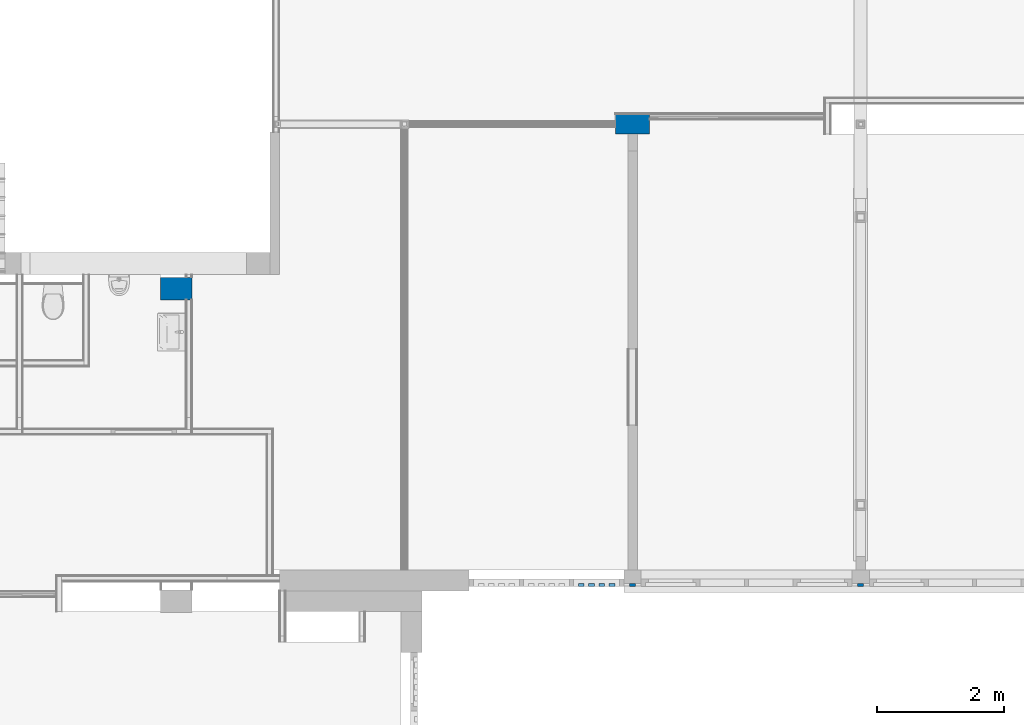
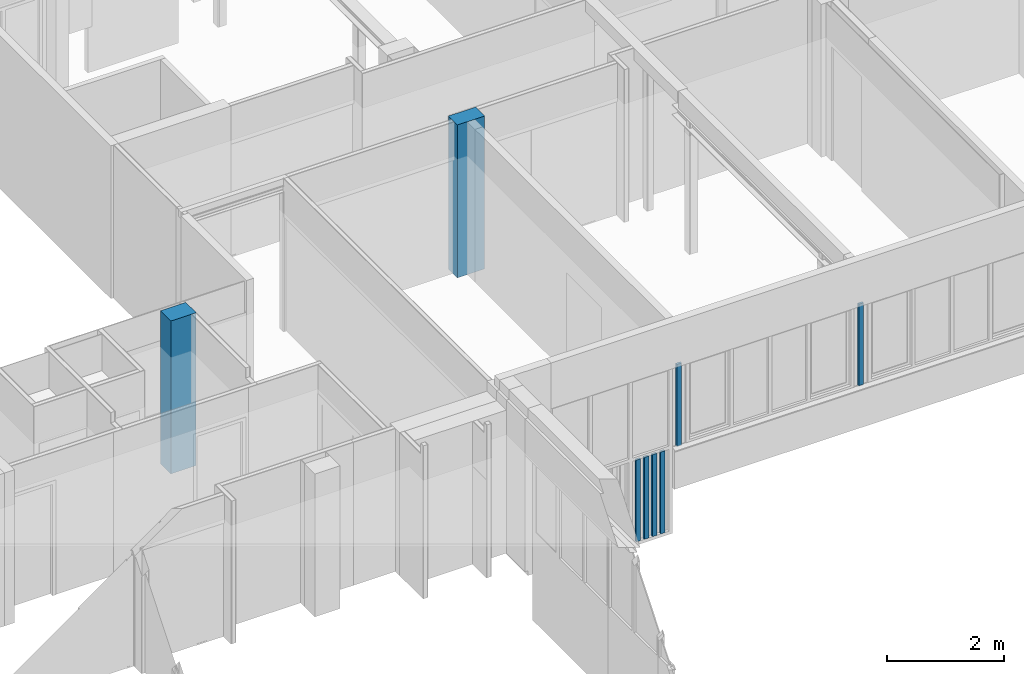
# One storey, part 13 of 99: 8 columns.
"""IFC2X3 building model written with IfcOpenShell, lengths in millimetres."""

from ifc_helpers import new_model, entity, si_unit, converted_unit, derived_unit, money_unit, direction, frame, origin_with_axes, place, context, subcontext, project, spatial, faceted_brep, material, type_object, element, save


model = new_model("IFC2X3")

# Units and contexts
model_context = context("Model", 3, precision=0.01, world=origin_with_axes(), true_north=direction((0.0, 1.0)))
body_context = subcontext(model_context, "Body", "Model", "MODEL_VIEW")
ifc_project = project(units=[si_unit("LENGTHUNIT", "METRE", prefix="MILLI"), si_unit("AREAUNIT", "SQUARE_METRE"), si_unit("VOLUMEUNIT", "CUBIC_METRE"), converted_unit("PLANEANGLEUNIT", "DEGREE", entity("IfcPlaneAngleMeasure", 0.0174532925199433), si_unit("PLANEANGLEUNIT", "RADIAN"), dimensions=[0, 0, 0, 0, 0, 0, 0]), money_unit("EUR"), converted_unit("TIMEUNIT", "Year", entity("IfcTimeMeasure", 31557600.0), si_unit("TIMEUNIT", "SECOND"), dimensions=[0, 0, 1, 0, 0, 0, 0]), si_unit("MASSUNIT", "GRAM", prefix="KILO"), si_unit("THERMODYNAMICTEMPERATUREUNIT", "DEGREE_CELSIUS"), si_unit("LUMINOUSINTENSITYUNIT", "LUMEN"), si_unit("ENERGYUNIT", "JOULE", prefix="MEGA"), derived_unit("THERMALCONDUCTANCEUNIT", [(si_unit("POWERUNIT", "WATT"), 1), (si_unit("LENGTHUNIT", "METRE"), -1), (si_unit("THERMODYNAMICTEMPERATUREUNIT", "KELVIN"), -1)]), derived_unit("SPECIFICHEATCAPACITYUNIT", [(si_unit("ENERGYUNIT", "JOULE"), 1), (si_unit("MASSUNIT", "GRAM", prefix="KILO"), -1), (si_unit("THERMODYNAMICTEMPERATUREUNIT", "KELVIN"), -1)]), derived_unit("MASSDENSITYUNIT", [(si_unit("MASSUNIT", "GRAM", prefix="KILO"), 1), (si_unit("VOLUMEUNIT", "CUBIC_METRE"), -1)])], contexts=[model_context])

# Site, building, storey
site_placement = place(None, origin_with_axes())
site = spatial("IfcSite", under=ifc_project, at=site_placement, Name="Site", CompositionType="ELEMENT")
building_placement = place(site_placement, origin_with_axes())
building = spatial("IfcBuilding", under=site, at=building_placement, Name="Naam gebouw", CompositionType="ELEMENT")
storey_placement = place(building_placement, frame((0.0, 0.0, 7650.0), z_axis=(0.0, 0.0, 1.0), x_axis=(1.0, 0.0, 0.0)))
storey = spatial("IfcBuildingStorey", under=building, at=storey_placement, Name="2e verdieping N", CompositionType="ELEMENT", Elevation=7650.0)

# Columns
ifc_material_1 = material(Name="Metaal - Staal C")
column_type_1 = type_object("IfcColumnType", Name="Metaal - Staal C 90 x 44", PredefinedType="COLUMN")
for number, where, z_axis, x_axis, name in (
    (1, (35192.16666666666, 10752.91242510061, -993.0000000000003), (0.0, 0.0, 1.0), (1.0, 0.0, 0.0), "_Kolom-x"),
    (2, (35513.94444444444, 10752.91242510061, -993.0000000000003), (0.0, 0.0, 1.0), (1.0, 0.0, 0.0), "_Kolom-x"),
    (3, (35353.05555555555, 10752.91242510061, -993.0000000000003), (0.0, 0.0, 1.0), (1.0, 0.0, 0.0), "_Kolom-x"),
    (4, (35674.83333333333, 10752.91242510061, -993.0000000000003), (0.0, 0.0, 1.0), (1.0, 0.0, 0.0), "_Kolom-x"),
):
    element("IfcColumn", number, at=place(storey_placement, frame(where, z_axis=z_axis, x_axis=x_axis)), inside=storey, type_object=column_type_1, material=ifc_material_1, Name=name, ObjectType="COLUMN", context=body_context, shape_type="Brep", body=[
        faceted_brep([(-45.00000000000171, -22.00000000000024, 1713.000000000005), (-45.00000000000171, -22.00000000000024, 0.0), (45.00000000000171, -22.00000000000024, 0.0), (45.00000000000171, -22.00000000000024, 1713.000000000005), (-45.00000000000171, 22.00000000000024, 1713.000000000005), (-45.00000000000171, 22.00000000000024, 0.0), (45.00000000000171, 22.00000000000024, 0.0), (45.00000000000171, 22.00000000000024, 1713.000000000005)], [[[0, 1, 2, 3]], [[4, 5, 1, 0]], [[2, 1, 5, 6]], [[3, 2, 6, 7]], [[4, 0, 3, 7]], [[7, 6, 5, 4]]]),
    ])
for number, where, z_axis, x_axis, name in (
    (5, (35999.99999999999, 10752.91242510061, 719.9999999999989), (0.0, 0.0, 1.0), (1.0, 0.0, 0.0), "_Kolom-x"),
    (6, (39599.99999999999, 10752.91242510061, 719.9999999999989), (0.0, 0.0, 1.0), (1.0, 0.0, 0.0), "_Kolom-x"),
):
    element("IfcColumn", number, at=place(storey_placement, frame(where, z_axis=z_axis, x_axis=x_axis)), inside=storey, type_object=column_type_1, material=ifc_material_1, Name=name, ObjectType="COLUMN", context=body_context, shape_type="Brep", body=[
        faceted_brep([(45.00000000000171, -22.00000000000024, 17.63269807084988), (45.00000000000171, -17.00000000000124, 18.51433297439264), (45.00000000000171, -17.00000000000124, 28.51433297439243), (45.00000000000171, -15.00000000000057, 28.51433297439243), (45.00000000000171, -15.00000000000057, 16.83613371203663), (45.00000000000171, -22.00000000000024, 15.60184484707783), (45.00000000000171, -22.00000000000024, 0.0), (45.00000000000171, 22.00000000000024, 0.0), (45.00000000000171, 22.00000000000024, 1720.000000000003), (45.00000000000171, -22.00000000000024, 1720.000000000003), (-45.00000000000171, -17.00000000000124, 18.51433297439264), (-45.00000000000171, -22.00000000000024, 17.63269807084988), (-45.00000000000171, -17.00000000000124, 28.51433297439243), (-45.00000000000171, -15.00000000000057, 28.51433297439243), (-45.00000000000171, -15.00000000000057, 16.83613371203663), (-45.00000000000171, -22.00000000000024, 15.60184484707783), (-45.00000000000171, -22.00000000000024, 0.0), (-45.00000000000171, 22.00000000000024, 0.0), (-45.00000000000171, 22.00000000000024, 1720.000000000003), (-45.00000000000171, -22.00000000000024, 1720.000000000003)], [[[0, 1, 2, 3, 4, 5, 6, 7, 8, 9]], [[10, 1, 0, 11]], [[12, 2, 1, 10]], [[13, 3, 2, 12]], [[14, 4, 3, 13]], [[15, 5, 4, 14]], [[6, 5, 15, 16]], [[7, 6, 16, 17]], [[18, 8, 7, 17]], [[8, 18, 19, 9]], [[19, 11, 0, 9]], [[12, 10, 11, 19, 18, 17, 16, 15, 14, 13]]]),
    ])
ifc_material_2 = material(Name="ALG - CONSTRUCTIEF")
column_type_2 = type_object("IfcColumnType", Name="ALG - CONSTRUCTIEF 500 x 355", PredefinedType="COLUMN")
column_1_placement = place(storey_placement, frame((28800.0, 15430.91242510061, -99.99999999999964), z_axis=(0.0, 0.0, 1.0), x_axis=(1.0, 0.0, 0.0)))
element("IfcColumn", 7, at=column_1_placement, inside=storey, type_object=column_type_2, material=ifc_material_2, Name="_Kolom-x", ObjectType="COLUMN", context=body_context, shape_type="Brep", body=[
    faceted_brep([(250.0, -177.5000000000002, 3299.999999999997), (250.0, -177.5000000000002, 99.99999999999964), (250.0, 177.5000000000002, 99.99999999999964), (250.0, 177.5000000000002, 3299.999999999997), (-250.0, -177.5000000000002, 3299.999999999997), (-250.0, -177.5000000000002, 99.99999999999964), (-250.0, 177.5000000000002, 99.99999999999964), (-250.0, 177.5000000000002, 3299.999999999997)], [[[0, 1, 2, 3]], [[4, 5, 1, 0]], [[5, 6, 2, 1]], [[3, 2, 6, 7]], [[4, 0, 3, 7]], [[7, 6, 5, 4]]]),
])
column_type_3 = type_object("IfcColumnType", Name="ALG - CONSTRUCTIEF 540 x 310", PredefinedType="COLUMN")
column_2_placement = place(storey_placement, frame((35999.99999999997, 18025.91242510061, -99.99999999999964), z_axis=(0.0, 0.0, 1.0), x_axis=(1.0, 0.0, 0.0)))
element("IfcColumn", 8, at=column_2_placement, inside=storey, type_object=column_type_3, material=ifc_material_2, Name="_Kolom-x", ObjectType="COLUMN", context=body_context, shape_type="Brep", body=[
    faceted_brep([(270.0000000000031, -155.0000000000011, 3299.999999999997), (270.0000000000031, -155.0000000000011, 99.99999999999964), (270.0000000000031, 155.0000000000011, 99.99999999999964), (270.0000000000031, 155.0000000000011, 3299.999999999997), (-270.0000000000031, -155.0000000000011, 3299.999999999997), (-270.0000000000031, -155.0000000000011, 99.99999999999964), (-270.0000000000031, 155.0000000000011, 99.99999999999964), (-270.0000000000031, 155.0000000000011, 3299.999999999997)], [[[0, 1, 2, 3]], [[4, 5, 1, 0]], [[5, 6, 2, 1]], [[3, 2, 6, 7]], [[4, 0, 3, 7]], [[7, 6, 5, 4]]]),
])

save(model, "model.ifc")
